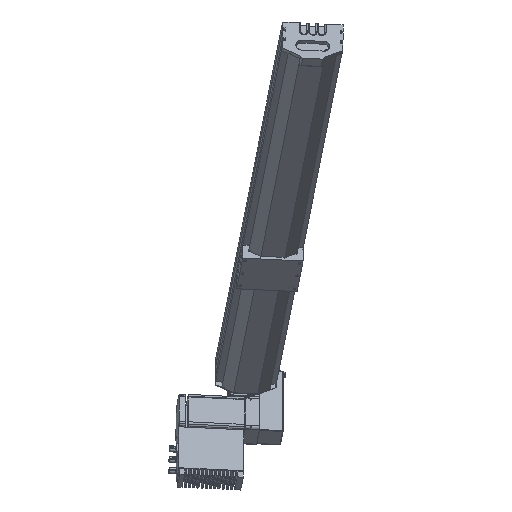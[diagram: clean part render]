
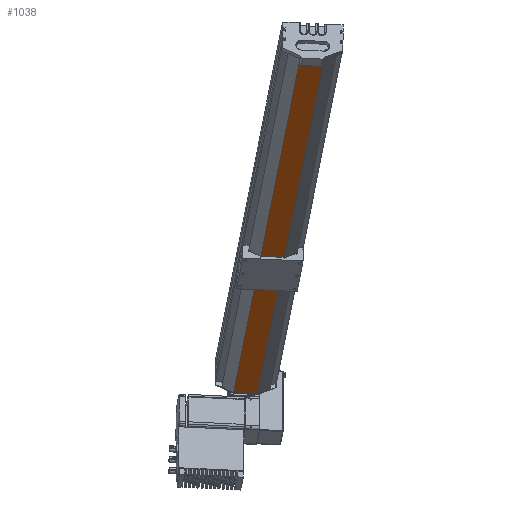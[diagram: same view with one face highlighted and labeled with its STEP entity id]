
A CAD part, isometric view. The second image highlights one B-rep face of the part: STEP entity #1038.
In plain terms, the highlighted planar face has unit normal (-0.632, -0.625, -0.459) as drawn and (0, 1, 0) by its records, which use the part's own axes.
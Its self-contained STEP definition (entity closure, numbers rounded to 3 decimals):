
#860 = EDGE_LOOP ( 'NONE', ( #1032, #1058, #865, #1079 ) ) ;
#865 = ORIENTED_EDGE ( 'NONE', *, *, #1059, .F. ) ;
#1032 = ORIENTED_EDGE ( 'NONE', *, *, #1099, .T. ) ;
#1038 = ADVANCED_FACE ( 'NONE', ( #8080 ), #8076, .F. ) ;
#1040 = VERTEX_POINT ( 'NONE', #8071 ) ;
#1042 = VERTEX_POINT ( 'NONE', #7903 ) ;
#1044 = EDGE_CURVE ( 'NONE', #1040, #1042, #7910, .T. ) ;
#1058 = ORIENTED_EDGE ( 'NONE', *, *, #1060, .F. ) ;
#1059 = EDGE_CURVE ( 'NONE', #1040, #1080, #8148, .T. ) ;
#1060 = EDGE_CURVE ( 'NONE', #1080, #1074, #8137, .T. ) ;
#1074 = VERTEX_POINT ( 'NONE', #7962 ) ;
#1079 = ORIENTED_EDGE ( 'NONE', *, *, #1044, .T. ) ;
#1080 = VERTEX_POINT ( 'NONE', #7969 ) ;
#1099 = EDGE_CURVE ( 'NONE', #1042, #1074, #7953, .T. ) ;
#7900 = DIRECTION ( 'NONE',  ( 0., 0., -1. ) ) ;
#7901 = VECTOR ( 'NONE', #7900, 1000. ) ;
#7903 = CARTESIAN_POINT ( 'NONE',  ( 20., 61.75, 0. ) ) ;
#7905 = DIRECTION ( 'NONE',  ( 0., 0., -1. ) ) ;
#7906 = DIRECTION ( 'NONE',  ( 0., -1., 0. ) ) ;
#7907 = CARTESIAN_POINT ( 'NONE',  ( 20., 61.75, 1200. ) ) ;
#7909 = CARTESIAN_POINT ( 'NONE',  ( 20., 61.75, 1200. ) ) ;
#7910 = LINE ( 'NONE', #7909, #7901 ) ;
#7941 = DIRECTION ( 'NONE',  ( -1., 0., 0. ) ) ;
#7944 = CARTESIAN_POINT ( 'NONE',  ( 20., 61.75, 0. ) ) ;
#7953 = LINE ( 'NONE', #7944, #7970 ) ;
#7962 = CARTESIAN_POINT ( 'NONE',  ( -20., 61.75, 0. ) ) ;
#7969 = CARTESIAN_POINT ( 'NONE',  ( -20., 61.75, 1200. ) ) ;
#7970 = VECTOR ( 'NONE', #7941, 1000. ) ;
#8026 = AXIS2_PLACEMENT_3D ( 'NONE', #7907, #7906, #7905 ) ;
#8071 = CARTESIAN_POINT ( 'NONE',  ( 20., 61.75, 1200. ) ) ;
#8076 = PLANE ( 'NONE',  #8026 ) ;
#8080 = FACE_OUTER_BOUND ( 'NONE', #860, .T. ) ;
#8133 = DIRECTION ( 'NONE',  ( 0., 0., -1. ) ) ;
#8134 = VECTOR ( 'NONE', #8133, 1000. ) ;
#8135 = CARTESIAN_POINT ( 'NONE',  ( -20., 61.75, 1200. ) ) ;
#8137 = LINE ( 'NONE', #8135, #8134 ) ;
#8138 = DIRECTION ( 'NONE',  ( -1., 0., 0. ) ) ;
#8139 = VECTOR ( 'NONE', #8138, 1000. ) ;
#8140 = CARTESIAN_POINT ( 'NONE',  ( 20., 61.75, 1200. ) ) ;
#8148 = LINE ( 'NONE', #8140, #8139 ) ;
